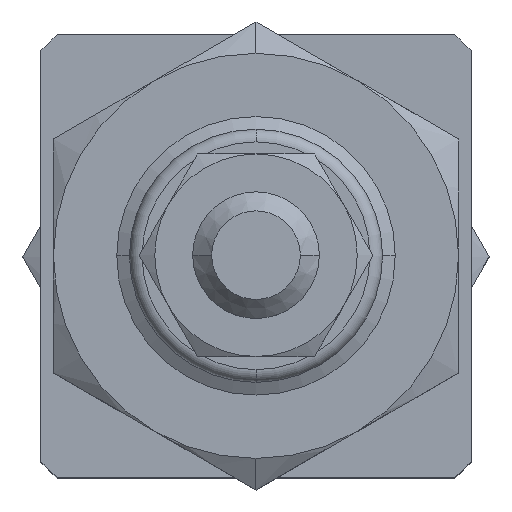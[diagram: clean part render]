
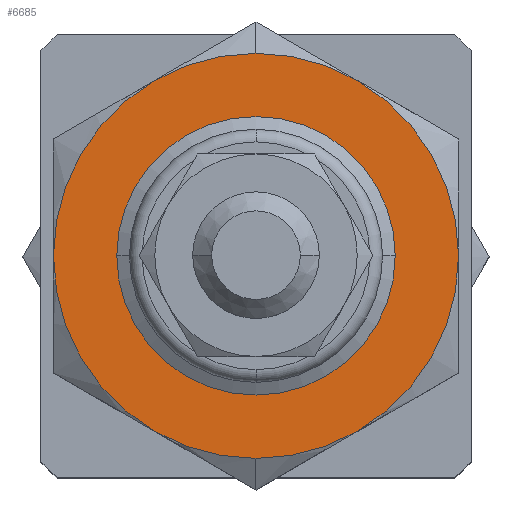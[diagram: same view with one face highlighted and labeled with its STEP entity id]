
A CAD part, top view. The second image highlights one B-rep face of the part: STEP entity #6685.
In plain terms, the highlighted planar face has unit normal (0, 0, 1).
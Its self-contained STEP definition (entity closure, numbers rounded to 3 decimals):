
#422 = EDGE_CURVE ( 'NONE', #9862, #3346, #6667, .T. ) ;
#489 = CIRCLE ( 'NONE', #13319, 10.188 ) ;
#541 = CARTESIAN_POINT ( 'NONE',  ( 54.498, 13.5, 150. ) ) ;
#909 = AXIS2_PLACEMENT_3D ( 'NONE', #9429, #4433, #13382 ) ;
#1973 = CIRCLE ( 'NONE', #909, 16. ) ;
#2625 = DIRECTION ( 'NONE',  ( 0., 0., -1. ) ) ;
#3346 = VERTEX_POINT ( 'NONE', #5940 ) ;
#3543 = EDGE_CURVE ( 'NONE', #9539, #9035, #1973, .T. ) ;
#4433 = DIRECTION ( 'NONE',  ( 0., 0., 1. ) ) ;
#5703 = DIRECTION ( 'NONE',  ( 0., 0., 1. ) ) ;
#5841 = FACE_OUTER_BOUND ( 'NONE', #7733, .T. ) ;
#5940 = CARTESIAN_POINT ( 'NONE',  ( 31.216, 13.5, 150. ) ) ;
#6214 = ORIENTED_EDGE ( 'NONE', *, *, #10516, .T. ) ;
#6532 = AXIS2_PLACEMENT_3D ( 'NONE', #13704, #16167, #7255 ) ;
#6667 = CIRCLE ( 'NONE', #7592, 10.188 ) ;
#6685 = ADVANCED_FACE ( 'NONE', ( #7797, #5841 ), #14354, .T. ) ;
#7089 = CARTESIAN_POINT ( 'NONE',  ( 41.404, 29.5, 150. ) ) ;
#7255 = DIRECTION ( 'NONE',  ( 0., 1., 0. ) ) ;
#7450 = EDGE_CURVE ( 'NONE', #9035, #9539, #10546, .T. ) ;
#7529 = ORIENTED_EDGE ( 'NONE', *, *, #7450, .T. ) ;
#7592 = AXIS2_PLACEMENT_3D ( 'NONE', #7656, #2625, #11451 ) ;
#7656 = CARTESIAN_POINT ( 'NONE',  ( 41.404, 13.5, 150. ) ) ;
#7733 = EDGE_LOOP ( 'NONE', ( #12196, #7529 ) ) ;
#7797 = FACE_BOUND ( 'NONE', #14075, .T. ) ;
#8234 = DIRECTION ( 'NONE',  ( 1., 0., 0. ) ) ;
#8372 = ORIENTED_EDGE ( 'NONE', *, *, #422, .T. ) ;
#9035 = VERTEX_POINT ( 'NONE', #15438 ) ;
#9429 = CARTESIAN_POINT ( 'NONE',  ( 41.404, 13.5, 150. ) ) ;
#9539 = VERTEX_POINT ( 'NONE', #7089 ) ;
#9862 = VERTEX_POINT ( 'NONE', #11928 ) ;
#10516 = EDGE_CURVE ( 'NONE', #3346, #9862, #489, .T. ) ;
#10546 = CIRCLE ( 'NONE', #6532, 16. ) ;
#10983 = CARTESIAN_POINT ( 'NONE',  ( 41.404, 13.5, 150. ) ) ;
#11082 = DIRECTION ( 'NONE',  ( 0., 0., -1. ) ) ;
#11451 = DIRECTION ( 'NONE',  ( 1., 0., 0. ) ) ;
#11928 = CARTESIAN_POINT ( 'NONE',  ( 51.592, 13.5, 150. ) ) ;
#12196 = ORIENTED_EDGE ( 'NONE', *, *, #3543, .T. ) ;
#13319 = AXIS2_PLACEMENT_3D ( 'NONE', #10983, #11082, #15871 ) ;
#13382 = DIRECTION ( 'NONE',  ( 0., 1., 0. ) ) ;
#13680 = AXIS2_PLACEMENT_3D ( 'NONE', #541, #5703, #8234 ) ;
#13704 = CARTESIAN_POINT ( 'NONE',  ( 41.404, 13.5, 150. ) ) ;
#14075 = EDGE_LOOP ( 'NONE', ( #8372, #6214 ) ) ;
#14354 = PLANE ( 'NONE',  #13680 ) ;
#15438 = CARTESIAN_POINT ( 'NONE',  ( 41.404, -2.5, 150. ) ) ;
#15871 = DIRECTION ( 'NONE',  ( 1., 0., 0. ) ) ;
#16167 = DIRECTION ( 'NONE',  ( 0., 0., 1. ) ) ;
